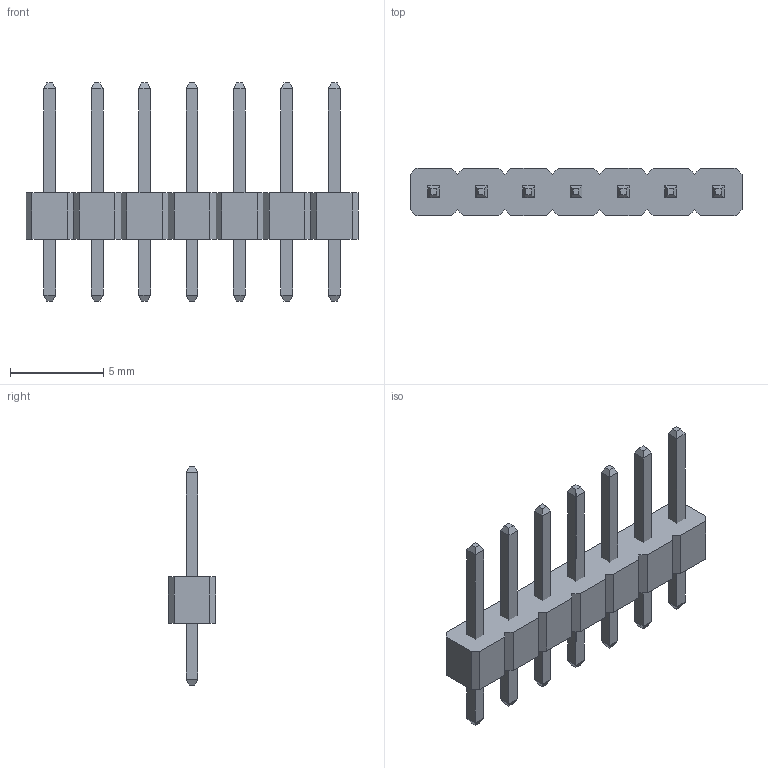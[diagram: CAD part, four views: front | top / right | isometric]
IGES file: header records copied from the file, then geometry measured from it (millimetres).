
Start section: Data from Parasolid IGES Translator 23.1.110, Copyright(c) 2006 Siemens PLM Software. All Rights Reserved.
Global section: file name: 5f3dd52e933f190f816bc9f4.iges; native system: By Siemens PLM Incorporated; preprocessor: XPlus GENERIC/IGES 23.1.110; author: Noname; organization: Noname; date: 20200820.014310; units: metre
Bounding box: 17.78 x 2.54 x 11.68 mm (x, y, z)
Surface area: 409.8 mm2 (no closed solid volume)
Topology: 0 solids, 0 shells, 186 faces, 824 edges, 824 vertices
Faces by surface type: extrusion 186
